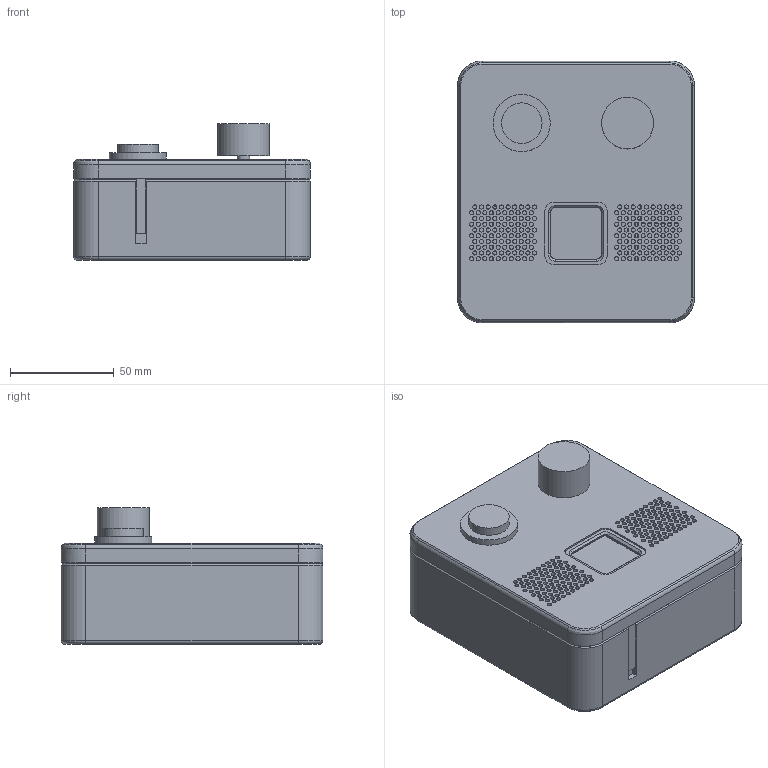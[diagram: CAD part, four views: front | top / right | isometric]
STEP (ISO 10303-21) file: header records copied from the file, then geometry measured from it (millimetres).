
FILE_DESCRIPTION(('Open CASCADE Model'),'2;1');
FILE_NAME('Open CASCADE Shape Model','2026-10-01T00:49:09',('Author'),( 'Open CASCADE'),'Open CASCADE STEP processor 7.9','Open CASCADE 7.9' ,'Unknown');
FILE_SCHEMA(('AUTOMOTIVE_DESIGN { 1 0 10303 214 1 1 1 1 }'));
Length unit declared in the file: millimetre
Products named in the file (26): WhatBox_v3; Base; Lid; TALK; Knob; Encoder_shaft; pi; pi_header; pi_usb; pi_power; pi_hdmi; pi_audio; pi_sd; power_plug; standoffs; freenove; terminals; header_riser; pim485; speaker; screen; pim485_buttons; mic; talk_body; talk_nut; encoder_body
Assembly tree (25 placements, depth 2):
  WhatBox_v3
    Base
    Lid
    TALK
    Knob
    Encoder_shaft
    pi
    pi_header
    pi_usb
    pi_power
    pi_hdmi
    pi_audio
    pi_sd
    power_plug
    standoffs
    freenove
    terminals
    header_riser
    pim485
    speaker
    screen
    pim485_buttons
    mic
    talk_body
    talk_nut
    encoder_body
Bounding box: 114.34 x 126.4 x 65.8 mm (x, y, z)
Volume: 198889.8 mm3; surface area: 160302.2 mm2
Topology: 32 solids, 32 shells, 677 faces, 1693 edges, 1110 vertices
Faces by surface type: cylinder 344, plane 304, cone 16, torus 8, bspline 4, extrusion 1
Full cylindrical faces by diameter (mm): 2 x207, 2.2 x4, 2.6 x4, 2.7 x8, 3.5 x4, 5.2 x4, 5.6 x4, 6 x5, 6.6 x4, 7.4 x1, 8 x4, 9.6 x4, 19.6 x1, 20 x1, 24.4 x1, 25 x2, 27.6 x1, 33 x1
Entity records: 45740 total; most frequent: CARTESIAN_POINT 11139, DIRECTION 6210, ORIENTED_EDGE 3386, PCURVE 3386, DEFINITIONAL_REPRESENTATION 3386, VECTOR 3235, LINE 3234, EDGE_CURVE 1693
